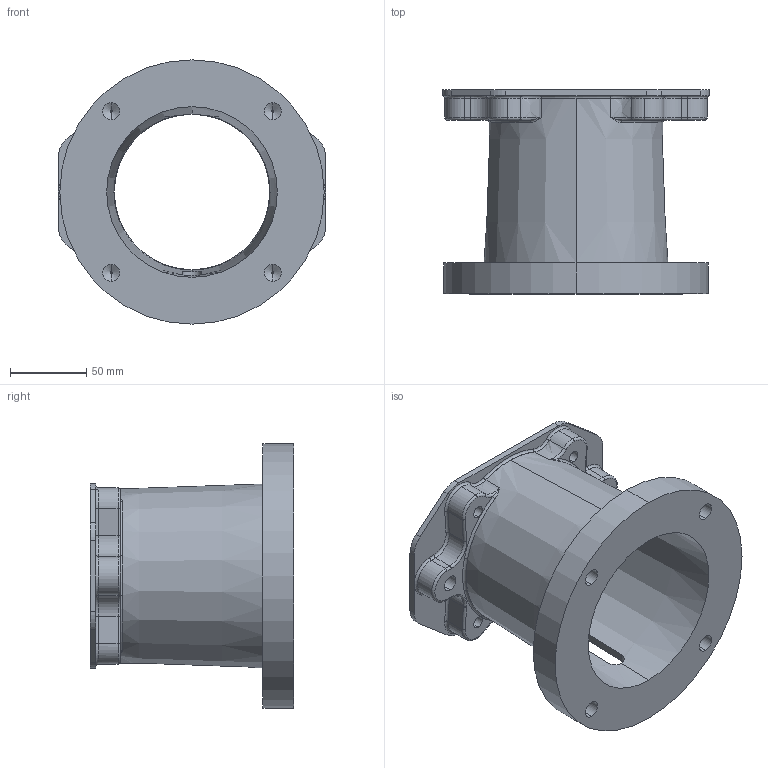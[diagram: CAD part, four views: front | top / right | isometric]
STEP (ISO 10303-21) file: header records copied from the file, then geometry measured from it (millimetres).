
FILE_DESCRIPTION (( 'STEP AP203' ), '1' );
FILE_NAME ('M05652100M.STEP', '2015-01-19T15:39:20', ( '' ), ( '' ), 'SwSTEP 2.0', 'SolidWorks 2014', '' );
FILE_SCHEMA (( 'CONFIG_CONTROL_DESIGN' ));
Length unit declared in the file: inch
Products named in the file (1): M05652100M
Bounding box: 174.75 x 133.35 x 172.97 mm (x, y, z)
Volume: 556723.9 mm3; surface area: 149031.2 mm2
Topology: 1 solids, 1 shells, 158 faces, 400 edges, 240 vertices
Faces by surface type: cylinder 62, torus 44, plane 24, bspline 16, cone 12
Entity records: 5979 total; most frequent: CARTESIAN_POINT 2047, DIRECTION 866, ORIENTED_EDGE 792, EDGE_CURVE 396, AXIS2_PLACEMENT_3D 371, VERTEX_POINT 240, CIRCLE 228, EDGE_LOOP 182
